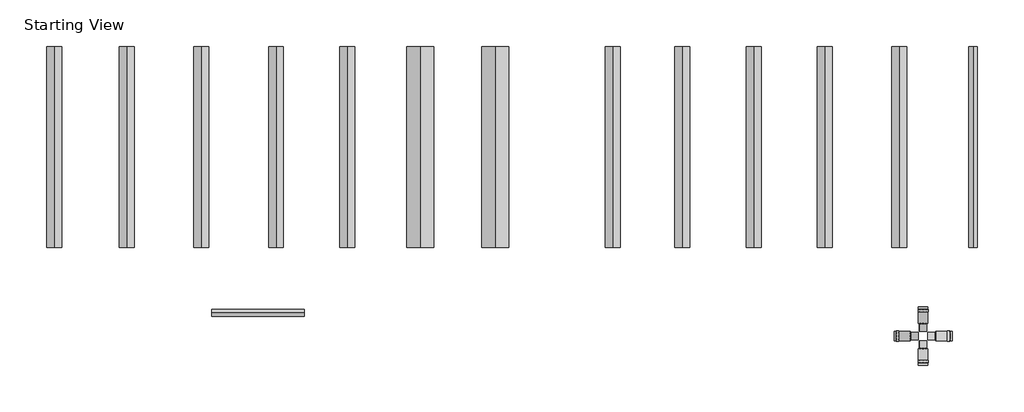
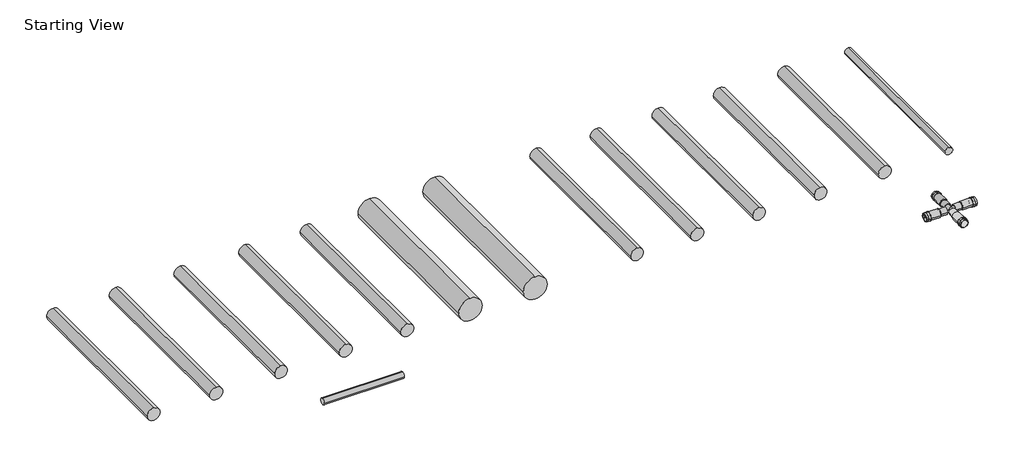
# One storey, incomplete: 14 pipe segments, 4 pipe fittings.
"""IFC4 building model written with IfcOpenShell, lengths in millimetres."""

from ifc_helpers import new_model, si_unit, point, frame, frame_2d, origin, place, context, project, spatial, circle_curve, trimmed, segment, composite_curve, outline, extrude, transform, mapped, element, save
from components import var_cbd6d4a9, var_d68ef85f

model = new_model("IFC4")

# Units and contexts
model_context = context("Model", 3, world=origin())
ifc_project = project(units=[si_unit("LENGTHUNIT", "METRE", prefix="MILLI")], contexts=[model_context])

# Site, building, storey
site = spatial("IfcSite", under=ifc_project)
building = spatial("IfcBuilding", under=site)
storey = spatial("IfcBuildingStorey", under=building, Name="Starting View", Elevation=0.0)

# Pipe fittings
placement = place(None, origin())
var_shape = var_cbd6d4a9(model_context)
element("IfcPipeFitting", 1, ObjectType="PlastigamaWavin_Unionesdetubería_Biax y UZ_ZNoUsarAdaptadorEnsamblado : Var.", at=placement, inside=storey, context=model_context, shape_type="MappedRepresentation", body=[
    mapped(var_shape, transform((7800.3613115, 611.5799854, 0.0), x_axis=(1.0, 0.0, 0.0), y_axis=(0.0, 1.0, 0.0), z_axis=(0.0, 0.0, 1.0))),
])
element("IfcPipeFitting", 2, ObjectType="PlastigamaWavin_Unionesdetubería_Biax y UZ_ZNoUsarAdaptadorEnsamblado : Var.", at=placement, inside=storey, context=model_context, shape_type="MappedRepresentation", body=[
    mapped(var_shape, transform((7888.8613115, 700.0799854, 0.0), x_axis=(0.0, -1.0, 0.0), y_axis=(1.0, 0.0, 0.0), z_axis=(0.0, 0.0, 1.0))),
])
element("IfcPipeFitting", 3, ObjectType="PlastigamaWavin_Unionesdetubería_Biax y UZ_ZNoUsarAdaptadorEnsamblado : Var.", at=placement, inside=storey, context=model_context, shape_type="MappedRepresentation", body=[
    mapped(var_shape, transform((7888.8613115, 523.0799854, 0.0), x_axis=(0.0, 1.0, 0.0), y_axis=(-1.0, 0.0, 0.0), z_axis=(0.0, 0.0, 1.0))),
])
var_2_shape = var_d68ef85f(model_context)
element("IfcPipeFitting", 4, ObjectType="PlastigamaWavin_Unionesdetubería_Biax y UZ_ZNoUsarAdaptadorEnsamblado : Var.", at=placement, inside=storey, context=model_context, shape_type="MappedRepresentation", body=[
    mapped(var_2_shape, transform((7977.3613115, 611.5799854, 0.0), x_axis=(-1.0, 0.0, 0.0), y_axis=(0.0, -1.0, 0.0), z_axis=(0.0, 0.0, 1.0))),
])

# Pipe segments
element("IfcPipeSegment", 5, ObjectType="Plastigama PVC-O Biax 0,63MPa (91psi)", at=placement, inside=storey, context=model_context, shape_type="SweptSolid", body=[
    extrude(outline(composite_curve([segment(trimmed(circle_curve(frame_2d((0.0, 1499.2026325)), 55.0), [point((0.0, 1444.2026325))], [point((-55.0, 1499.2026325))], False, "CARTESIAN"), True, "CONTINUOUS"), segment(trimmed(circle_curve(frame_2d((0.0, 1499.2026325)), 55.0), [point((-55.0, 1499.2026325))], [point((0.0, 1554.2026325))], False, "CARTESIAN"), True, "CONTINUOUS"), segment(trimmed(circle_curve(frame_2d((0.0, 1499.2026325)), 55.0), [point((0.0, 1554.2026325))], [point((55.0, 1499.2026325))], False, "CARTESIAN"), True, "CONTINUOUS"), segment(trimmed(circle_curve(frame_2d((0.0, 1499.2026325)), 55.0), [point((55.0, 1499.2026325))], [point((0.0, 1444.2026325))], False, "CARTESIAN"), True, "CONTINUOUS")], self_intersect=False)), frame((0.0, 1263.5070395, 0.0), z_axis=(0.0, 1.0, 0.0), x_axis=(0.0, 0.0, 1.0)), (0.0, 0.0, 1.0), 1480.0),
])
element("IfcPipeSegment", 6, ObjectType="Plastigama PVC-O Biax 0,80MPa (116psi)", at=placement, inside=storey, context=model_context, shape_type="SweptSolid", body=[
    extrude(outline(composite_curve([segment(trimmed(circle_curve(frame_2d((0.0, 2032.5695852)), 55.0), [point((0.0, 1977.5695852))], [point((-55.0, 2032.5695852))], False, "CARTESIAN"), True, "CONTINUOUS"), segment(trimmed(circle_curve(frame_2d((0.0, 2032.5695852)), 55.0), [point((-55.0, 2032.5695852))], [point((0.0, 2087.5695852))], False, "CARTESIAN"), True, "CONTINUOUS"), segment(trimmed(circle_curve(frame_2d((0.0, 2032.5695852)), 55.0), [point((0.0, 2087.5695852))], [point((55.0, 2032.5695852))], False, "CARTESIAN"), True, "CONTINUOUS"), segment(trimmed(circle_curve(frame_2d((0.0, 2032.5695852)), 55.0), [point((55.0, 2032.5695852))], [point((0.0, 1977.5695852))], False, "CARTESIAN"), True, "CONTINUOUS")], self_intersect=False)), frame((0.0, 1263.5070395, 0.0), z_axis=(0.0, 1.0, 0.0), x_axis=(0.0, 0.0, 1.0)), (0.0, 0.0, 1.0), 1480.0),
])
element("IfcPipeSegment", 7, ObjectType="Plastigama PVC-O Biax 1,00MPa (145psi)", at=placement, inside=storey, context=model_context, shape_type="SweptSolid", body=[
    extrude(outline(composite_curve([segment(trimmed(circle_curve(frame_2d((0.0, 2581.9884957)), 55.0), [point((0.0, 2526.9884957))], [point((-55.0, 2581.9884957))], False, "CARTESIAN"), True, "CONTINUOUS"), segment(trimmed(circle_curve(frame_2d((0.0, 2581.9884957)), 55.0), [point((-55.0, 2581.9884957))], [point((0.0, 2636.9884957))], False, "CARTESIAN"), True, "CONTINUOUS"), segment(trimmed(circle_curve(frame_2d((0.0, 2581.9884957)), 55.0), [point((0.0, 2636.9884957))], [point((55.0, 2581.9884957))], False, "CARTESIAN"), True, "CONTINUOUS"), segment(trimmed(circle_curve(frame_2d((0.0, 2581.9884957)), 55.0), [point((55.0, 2581.9884957))], [point((0.0, 2526.9884957))], False, "CARTESIAN"), True, "CONTINUOUS")], self_intersect=False)), frame((0.0, 1263.5070395, 0.0), z_axis=(0.0, 1.0, 0.0), x_axis=(0.0, 0.0, 1.0)), (0.0, 0.0, 1.0), 1480.0),
])
element("IfcPipeSegment", 8, ObjectType="Plastigama PVC-O Biax 1,25MPa (181psi)", at=placement, inside=storey, context=model_context, shape_type="SweptSolid", body=[
    extrude(outline(composite_curve([segment(trimmed(circle_curve(frame_2d((0.0, 3131.4074062)), 55.0), [point((0.0, 3076.4074062))], [point((-55.0, 3131.4074062))], False, "CARTESIAN"), True, "CONTINUOUS"), segment(trimmed(circle_curve(frame_2d((0.0, 3131.4074062)), 55.0), [point((-55.0, 3131.4074062))], [point((0.0, 3186.4074062))], False, "CARTESIAN"), True, "CONTINUOUS"), segment(trimmed(circle_curve(frame_2d((0.0, 3131.4074062)), 55.0), [point((0.0, 3186.4074062))], [point((55.0, 3131.4074062))], False, "CARTESIAN"), True, "CONTINUOUS"), segment(trimmed(circle_curve(frame_2d((0.0, 3131.4074062)), 55.0), [point((55.0, 3131.4074062))], [point((0.0, 3076.4074062))], False, "CARTESIAN"), True, "CONTINUOUS")], self_intersect=False)), frame((0.0, 1263.5070395, 0.0), z_axis=(0.0, 1.0, 0.0), x_axis=(0.0, 0.0, 1.0)), (0.0, 0.0, 1.0), 1480.0),
])
element("IfcPipeSegment", 9, ObjectType="Plastigama PVC-O Biax 1,60MPa (232psi)", at=placement, inside=storey, context=model_context, shape_type="SweptSolid", body=[
    extrude(outline(composite_curve([segment(trimmed(circle_curve(frame_2d((0.0, 3654.0433672)), 55.0), [point((0.0, 3599.0433672))], [point((-55.0, 3654.0433672))], False, "CARTESIAN"), True, "CONTINUOUS"), segment(trimmed(circle_curve(frame_2d((0.0, 3654.0433672)), 55.0), [point((-55.0, 3654.0433672))], [point((0.0, 3709.0433672))], False, "CARTESIAN"), True, "CONTINUOUS"), segment(trimmed(circle_curve(frame_2d((0.0, 3654.0433672)), 55.0), [point((0.0, 3709.0433672))], [point((55.0, 3654.0433672))], False, "CARTESIAN"), True, "CONTINUOUS"), segment(trimmed(circle_curve(frame_2d((0.0, 3654.0433672)), 55.0), [point((55.0, 3654.0433672))], [point((0.0, 3599.0433672))], False, "CARTESIAN"), True, "CONTINUOUS")], self_intersect=False)), frame((0.0, 1263.5070395, 0.0), z_axis=(0.0, 1.0, 0.0), x_axis=(0.0, 0.0, 1.0)), (0.0, 0.0, 1.0), 1480.0),
])
element("IfcPipeSegment", 10, ObjectType="Plastigama u-PVC UZ 0,50MPa (73psi)", at=placement, inside=storey, context=model_context, shape_type="SweptSolid", body=[
    extrude(outline(composite_curve([segment(trimmed(circle_curve(frame_2d((0.0, 5607.2243825)), 55.0), [point((0.0, 5552.2243825))], [point((-55.0, 5607.2243825))], False, "CARTESIAN"), True, "CONTINUOUS"), segment(trimmed(circle_curve(frame_2d((0.0, 5607.2243825)), 55.0), [point((-55.0, 5607.2243825))], [point((0.0, 5662.2243825))], False, "CARTESIAN"), True, "CONTINUOUS"), segment(trimmed(circle_curve(frame_2d((0.0, 5607.2243825)), 55.0), [point((0.0, 5662.2243825))], [point((55.0, 5607.2243825))], False, "CARTESIAN"), True, "CONTINUOUS"), segment(trimmed(circle_curve(frame_2d((0.0, 5607.2243825)), 55.0), [point((55.0, 5607.2243825))], [point((0.0, 5552.2243825))], False, "CARTESIAN"), True, "CONTINUOUS")], self_intersect=False)), frame((0.0, 1263.5070395, 0.0), z_axis=(0.0, 1.0, 0.0), x_axis=(0.0, 0.0, 1.0)), (0.0, 0.0, 1.0), 1480.0),
])
element("IfcPipeSegment", 11, ObjectType="Plastigama u-PVC UZ 0,63MPa (91psi)", at=placement, inside=storey, context=model_context, shape_type="SweptSolid", body=[
    extrude(outline(composite_curve([segment(trimmed(circle_curve(frame_2d((0.0, 6118.3090638)), 55.0), [point((0.0, 6063.3090638))], [point((-55.0, 6118.3090638))], False, "CARTESIAN"), True, "CONTINUOUS"), segment(trimmed(circle_curve(frame_2d((0.0, 6118.3090638)), 55.0), [point((-55.0, 6118.3090638))], [point((0.0, 6173.3090638))], False, "CARTESIAN"), True, "CONTINUOUS"), segment(trimmed(circle_curve(frame_2d((0.0, 6118.3090638)), 55.0), [point((0.0, 6173.3090638))], [point((55.0, 6118.3090638))], False, "CARTESIAN"), True, "CONTINUOUS"), segment(trimmed(circle_curve(frame_2d((0.0, 6118.3090638)), 55.0), [point((55.0, 6118.3090638))], [point((0.0, 6063.3090638))], False, "CARTESIAN"), True, "CONTINUOUS")], self_intersect=False)), frame((0.0, 1263.5070395, 0.0), z_axis=(0.0, 1.0, 0.0), x_axis=(0.0, 0.0, 1.0)), (0.0, 0.0, 1.0), 1480.0),
])
element("IfcPipeSegment", 12, ObjectType="Plastigama u-PVC UZ 0,80MPa (116psi)", at=placement, inside=storey, context=model_context, shape_type="SweptSolid", body=[
    extrude(outline(composite_curve([segment(trimmed(circle_curve(frame_2d((0.0, 6643.8130241)), 55.0), [point((0.0, 6588.8130241))], [point((-55.0, 6643.8130241))], False, "CARTESIAN"), True, "CONTINUOUS"), segment(trimmed(circle_curve(frame_2d((0.0, 6643.8130241)), 55.0), [point((-55.0, 6643.8130241))], [point((0.0, 6698.8130241))], False, "CARTESIAN"), True, "CONTINUOUS"), segment(trimmed(circle_curve(frame_2d((0.0, 6643.8130241)), 55.0), [point((0.0, 6698.8130241))], [point((55.0, 6643.8130241))], False, "CARTESIAN"), True, "CONTINUOUS"), segment(trimmed(circle_curve(frame_2d((0.0, 6643.8130241)), 55.0), [point((55.0, 6643.8130241))], [point((0.0, 6588.8130241))], False, "CARTESIAN"), True, "CONTINUOUS")], self_intersect=False)), frame((0.0, 1263.5070395, 0.0), z_axis=(0.0, 1.0, 0.0), x_axis=(0.0, 0.0, 1.0)), (0.0, 0.0, 1.0), 1480.0),
])
element("IfcPipeSegment", 13, ObjectType="Plastigama u-PVC UZ 1,00MPa (145psi)", at=placement, inside=storey, context=model_context, shape_type="SweptSolid", body=[
    extrude(outline(composite_curve([segment(trimmed(circle_curve(frame_2d((0.0, 7166.2660559)), 55.0), [point((0.0, 7111.2660559))], [point((-55.0, 7166.2660559))], False, "CARTESIAN"), True, "CONTINUOUS"), segment(trimmed(circle_curve(frame_2d((0.0, 7166.2660559)), 55.0), [point((-55.0, 7166.2660559))], [point((0.0, 7221.2660559))], False, "CARTESIAN"), True, "CONTINUOUS"), segment(trimmed(circle_curve(frame_2d((0.0, 7166.2660559)), 55.0), [point((0.0, 7221.2660559))], [point((55.0, 7166.2660559))], False, "CARTESIAN"), True, "CONTINUOUS"), segment(trimmed(circle_curve(frame_2d((0.0, 7166.2660559)), 55.0), [point((55.0, 7166.2660559))], [point((0.0, 7111.2660559))], False, "CARTESIAN"), True, "CONTINUOUS")], self_intersect=False)), frame((0.0, 1263.5070395, 0.0), z_axis=(0.0, 1.0, 0.0), x_axis=(0.0, 0.0, 1.0)), (0.0, 0.0, 1.0), 1480.0),
])
element("IfcPipeSegment", 14, ObjectType="Plastigama u-PVC UZ 1,60MPa (232psi)", at=placement, inside=storey, context=model_context, shape_type="SweptSolid", body=[
    extrude(outline(composite_curve([segment(trimmed(circle_curve(frame_2d((0.0, 8257.3613115)), 31.5), [point((0.0, 8225.8613115))], [point((-31.5, 8257.3613115))], False, "CARTESIAN"), True, "CONTINUOUS"), segment(trimmed(circle_curve(frame_2d((0.0, 8257.3613115)), 31.5), [point((-31.5, 8257.3613115))], [point((0.0, 8288.8613115))], False, "CARTESIAN"), True, "CONTINUOUS"), segment(trimmed(circle_curve(frame_2d((0.0, 8257.3613115)), 31.5), [point((0.0, 8288.8613115))], [point((31.5, 8257.3613115))], False, "CARTESIAN"), True, "CONTINUOUS"), segment(trimmed(circle_curve(frame_2d((0.0, 8257.3613115)), 31.5), [point((31.5, 8257.3613115))], [point((0.0, 8225.8613115))], False, "CARTESIAN"), True, "CONTINUOUS")], self_intersect=False)), frame((0.0, 1263.5070395, 0.0), z_axis=(0.0, 1.0, 0.0), x_axis=(0.0, 0.0, 1.0)), (0.0, 0.0, 1.0), 1480.0),
])
element("IfcPipeSegment", 15, ObjectType="Plastigama u-PVC UZ 1,25MPa (181psi)", at=placement, inside=storey, context=model_context, shape_type="SweptSolid", body=[
    extrude(outline(composite_curve([segment(trimmed(circle_curve(frame_2d((0.0, 7713.2953724)), 55.0), [point((0.0, 7658.2953724))], [point((-55.0, 7713.2953724))], False, "CARTESIAN"), True, "CONTINUOUS"), segment(trimmed(circle_curve(frame_2d((0.0, 7713.2953724)), 55.0), [point((-55.0, 7713.2953724))], [point((0.0, 7768.2953724))], False, "CARTESIAN"), True, "CONTINUOUS"), segment(trimmed(circle_curve(frame_2d((0.0, 7713.2953724)), 55.0), [point((0.0, 7768.2953724))], [point((55.0, 7713.2953724))], False, "CARTESIAN"), True, "CONTINUOUS"), segment(trimmed(circle_curve(frame_2d((0.0, 7713.2953724)), 55.0), [point((55.0, 7713.2953724))], [point((0.0, 7658.2953724))], False, "CARTESIAN"), True, "CONTINUOUS")], self_intersect=False)), frame((0.0, 1263.5070395, 0.0), z_axis=(0.0, 1.0, 0.0), x_axis=(0.0, 0.0, 1.0)), (0.0, 0.0, 1.0), 1480.0),
])
element("IfcPipeSegment", 16, ObjectType="Plastigama PVC-O Biax 2,50MPa (362psi)", at=placement, inside=storey, context=model_context, shape_type="SweptSolid", body=[
    extrude(outline(composite_curve([segment(trimmed(circle_curve(frame_2d((0.0, 4742.5634111)), 100.0), [point((0.0, 4642.5634111))], [point((-100.0, 4742.5634111))], False, "CARTESIAN"), True, "CONTINUOUS"), segment(trimmed(circle_curve(frame_2d((0.0, 4742.5634111)), 100.0), [point((-100.0, 4742.5634111))], [point((0.0, 4842.5634111))], False, "CARTESIAN"), True, "CONTINUOUS"), segment(trimmed(circle_curve(frame_2d((0.0, 4742.5634111)), 100.0), [point((0.0, 4842.5634111))], [point((100.0, 4742.5634111))], False, "CARTESIAN"), True, "CONTINUOUS"), segment(trimmed(circle_curve(frame_2d((0.0, 4742.5634111)), 100.0), [point((100.0, 4742.5634111))], [point((0.0, 4642.5634111))], False, "CARTESIAN"), True, "CONTINUOUS")], self_intersect=False)), frame((0.0, 1263.5070395, 0.0), z_axis=(0.0, 1.0, 0.0), x_axis=(0.0, 0.0, 1.0)), (0.0, 0.0, 1.0), 1480.0),
])
element("IfcPipeSegment", 17, ObjectType="Plastigama PVC-O Biax 2,00MPa (290psi)", at=placement, inside=storey, context=model_context, shape_type="SweptSolid", body=[
    extrude(outline(composite_curve([segment(trimmed(circle_curve(frame_2d((0.0, 4191.4316806)), 100.0), [point((0.0, 4091.4316806))], [point((-100.0, 4191.4316806))], False, "CARTESIAN"), True, "CONTINUOUS"), segment(trimmed(circle_curve(frame_2d((0.0, 4191.4316806)), 100.0), [point((-100.0, 4191.4316806))], [point((0.0, 4291.4316806))], False, "CARTESIAN"), True, "CONTINUOUS"), segment(trimmed(circle_curve(frame_2d((0.0, 4191.4316806)), 100.0), [point((0.0, 4291.4316806))], [point((100.0, 4191.4316806))], False, "CARTESIAN"), True, "CONTINUOUS"), segment(trimmed(circle_curve(frame_2d((0.0, 4191.4316806)), 100.0), [point((100.0, 4191.4316806))], [point((0.0, 4091.4316806))], False, "CARTESIAN"), True, "CONTINUOUS")], self_intersect=False)), frame((0.0, 1263.5070395, 0.0), z_axis=(0.0, 1.0, 0.0), x_axis=(0.0, 0.0, 1.0)), (0.0, 0.0, 1.0), 1480.0),
])
element("IfcPipeSegment", 18, ObjectType="Tubo de Transición Universal", at=placement, inside=storey, context=model_context, shape_type="SweptSolid", body=[
    extrude(outline(composite_curve([segment(trimmed(circle_curve(frame_2d((783.0995812, 0.0)), 26.75), [point((756.3495812, 0.0))], [point((783.0995812, 26.75))], False, "CARTESIAN"), True, "CONTINUOUS"), segment(trimmed(circle_curve(frame_2d((783.0995812, 0.0)), 26.75), [point((783.0995812, 26.75))], [point((809.8495812, 0.0))], False, "CARTESIAN"), True, "CONTINUOUS"), segment(trimmed(circle_curve(frame_2d((783.0995812, 0.0)), 26.75), [point((809.8495812, 0.0))], [point((783.0995812, -26.75))], False, "CARTESIAN"), True, "CONTINUOUS"), segment(trimmed(circle_curve(frame_2d((783.0995812, 0.0)), 26.75), [point((783.0995812, -26.75))], [point((756.3495812, 0.0))], False, "CARTESIAN"), True, "CONTINUOUS")], self_intersect=False)), frame((2657.8620118, 0.0, 0.0), z_axis=(1.0, 0.0, 0.0), x_axis=(0.0, 1.0, 0.0)), (0.0, 0.0, 1.0), 680.0),
])

save(model, "model.ifc")
